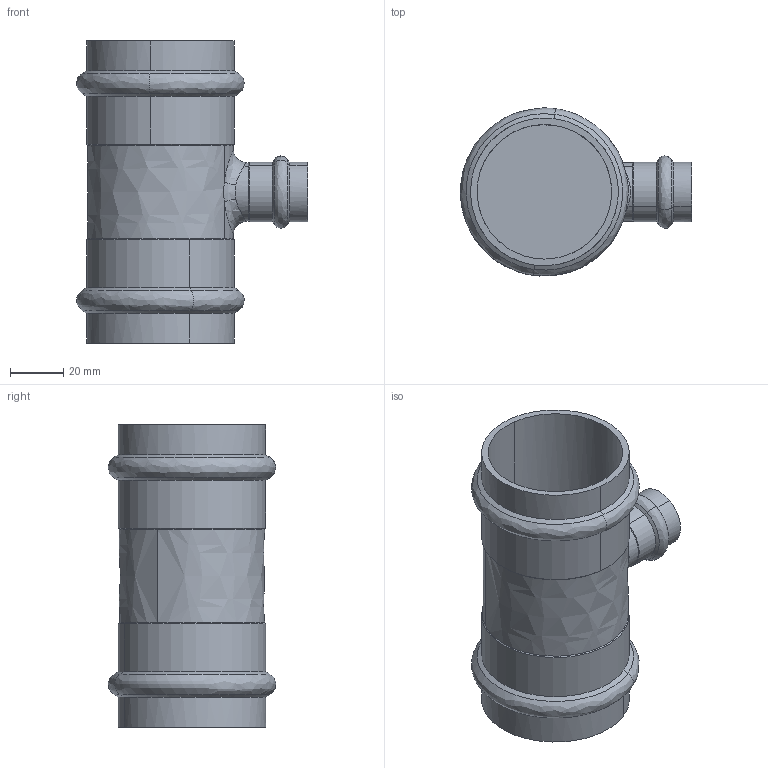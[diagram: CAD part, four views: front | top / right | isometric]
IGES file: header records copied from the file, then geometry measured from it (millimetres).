
Start section: 3D InterOp IGES (Version 25 0 1), Spatial Corp. Copyright (c) 1999-2007.
Global section: file name: pim0004530.igs; native system: Spatial Corp.; preprocessor: 3D InterOp ACIS/IGES; author: Cad-Pim; organization: TransMagic, Inc.; date: 20150430.164308; units: millimetre
Bounding box: 87.16 x 63.3 x 114 mm (x, y, z)
Volume: 133456.1 mm3; surface area: 42337.2 mm2
Topology: 1 solids, 1 shells, 55 faces, 143 edges, 93 vertices
Faces by surface type: cylinder 20, cone 18, bspline 17
